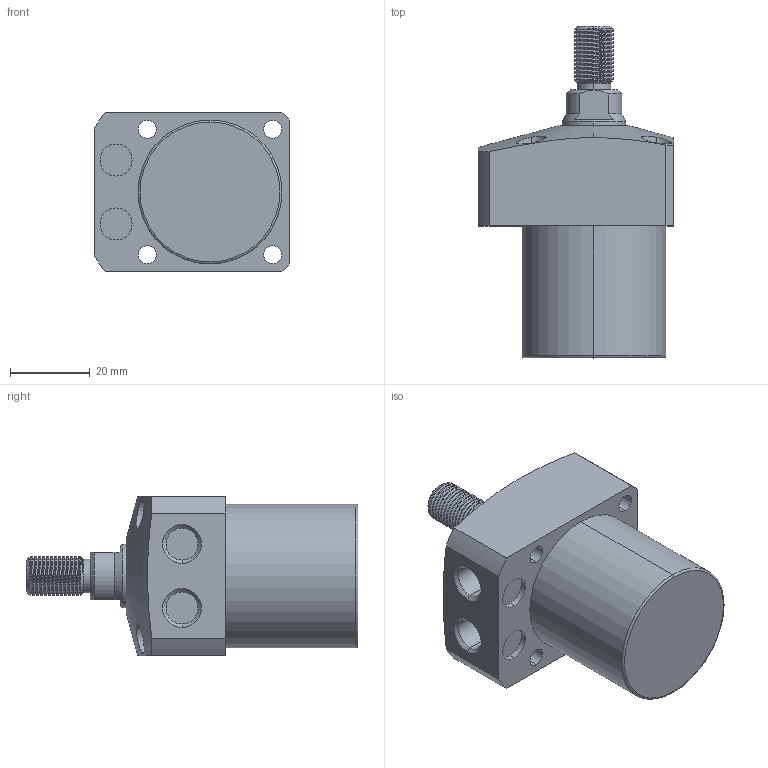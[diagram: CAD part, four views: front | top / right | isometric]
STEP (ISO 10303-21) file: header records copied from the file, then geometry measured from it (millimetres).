
FILE_DESCRIPTION (( 'STEP AP203' ), '1' );
FILE_NAME ('CLL-036CT-025.STEP', '2020-01-08T08:27:42', ( '' ), ( '' ), 'SwSTEP 2.0', 'SolidWorks 2015', '' );
FILE_SCHEMA (( 'CONFIG_CONTROL_DESIGN' ));
Length unit declared in the file: millimetre
Products named in the file (1): CLL-036CT-025
Bounding box: 49 x 83 x 40 mm (x, y, z)
Volume: 76484.9 mm3; surface area: 14397.3 mm2
Topology: 1 solids, 1 shells, 104 faces, 259 edges, 168 vertices
Faces by surface type: cylinder 61, plane 23, cone 16, torus 2, bspline 2
Entity records: 5049 total; most frequent: CARTESIAN_POINT 2630, ORIENTED_EDGE 518, DIRECTION 460, EDGE_CURVE 259, AXIS2_PLACEMENT_3D 185, VERTEX_POINT 168, EDGE_LOOP 123, FACE_OUTER_BOUND 104
